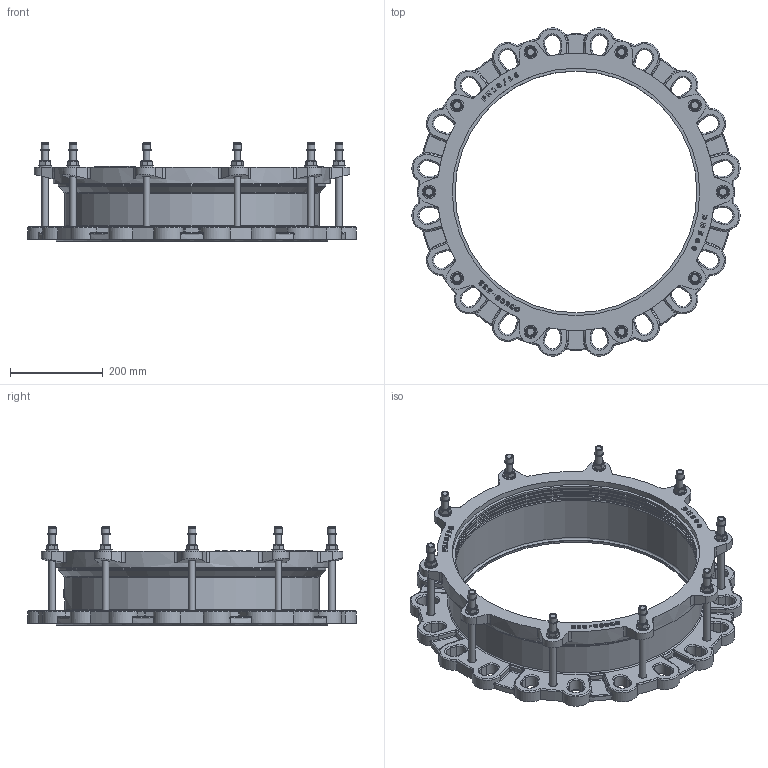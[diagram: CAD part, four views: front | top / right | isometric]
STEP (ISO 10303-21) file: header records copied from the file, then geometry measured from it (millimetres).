
FILE_DESCRIPTION(('STEP AP203'), '1');
FILE_NAME('Ôëàíöåâûé àäàïòåð', '', ('UNSPECIFIED'), ('UNSPECIFIED'), 'C3D Converter', 'C3D Toolkit', '');
FILE_SCHEMA(('CONFIG_CONTROL_DESIGN'));
Length unit declared in the file: millimetre
Assembly tree (43 placements, depth 2):
  (unnamed)
    (unnamed)
    (unnamed)  x10
    (unnamed)  x10
    (unnamed)  x10
    (unnamed)  x10
    (unnamed)
    (unnamed)
Bounding box: 706.91 x 706.91 x 211.4 mm (x, y, z)
Volume: 7854834.8 mm3; surface area: 1514586.6 mm2
Topology: 43 solids, 43 shells, 1892 faces, 4751 edges, 2876 vertices
Faces by surface type: plane 564, cylinder 517, extrusion 416, torus 181, bspline 80, cone 74, sphere 60
Full cylindrical faces by diameter (mm): 14 x30, 15 x10, 16 x20, 16.173 x1, 16.8 x10, 19.6 x10, 28 x10, 520.5 x5, 526.75 x3, 533 x2, 541 x1, 549 x2, 577 x1, 581 x2, 597 x1
Entity records: 68559 total; most frequent: CARTESIAN_POINT 27410, ORIENTED_EDGE 7646, DIRECTION 6449, EDGE_CURVE 3823, VERTEX_POINT 2408, AXIS2_PLACEMENT_3D 2239, VECTOR 1971, EDGE_LOOP 1743
